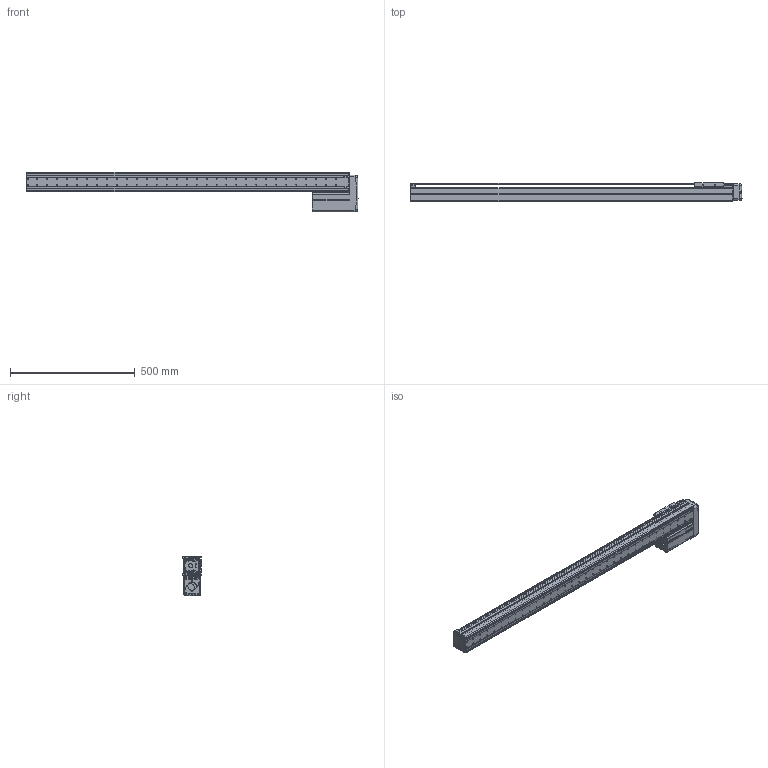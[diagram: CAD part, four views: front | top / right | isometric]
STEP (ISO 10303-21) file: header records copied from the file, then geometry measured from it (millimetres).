
FILE_DESCRIPTION((''),'2;1');
FILE_NAME('BE10E-UL-M_N-B0_IGS_PRT','2017-06-17T',(' '),(''),'PRO/ENGINEER BY PARAMETRIC TECHNOLOGY CORPORATION, 2015030','PRO/ENGINEER BY PARAMETRIC TECHNOLOGY CORPORATION, 2015030','');
FILE_SCHEMA(('CONFIG_CONTROL_DESIGN'));
Length unit declared in the file: millimetre
Products named in the file (1): BE10E-UL-M_N-B0_IGS_PRT
Bounding box: 1331.42 x 75 x 160 mm (x, y, z)
Volume: 1776588.1 mm3; surface area: 1196988.4 mm2
Topology: 2 solids, 141 shells, 1922 faces, 5205 edges, 3405 vertices
Faces by surface type: cylinder 961, plane 733, cone 81, torus 69, sphere 44, bspline 34
Entity records: 63289 total; most frequent: CARTESIAN_POINT 13625, DIRECTION 10770, ORIENTED_EDGE 9792, EDGE_CURVE 5165, AXIS2_PLACEMENT_3D 4069, VERTEX_POINT 3405, VECTOR 2632, LINE 2632
